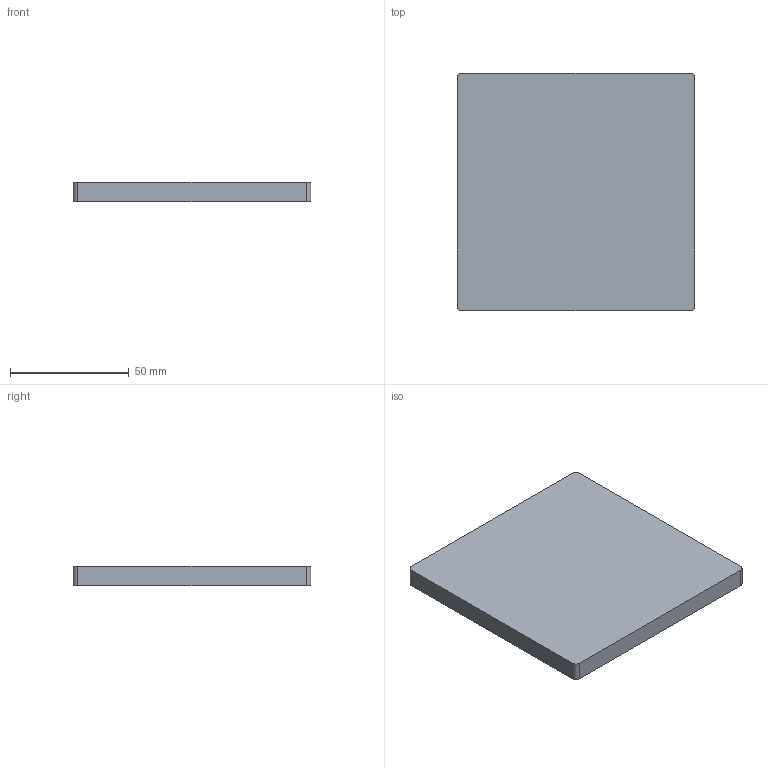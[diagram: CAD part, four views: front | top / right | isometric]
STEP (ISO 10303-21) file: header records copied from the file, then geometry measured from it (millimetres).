
FILE_DESCRIPTION (( 'STEP AP214' ), '1' );
FILE_NAME ('3595000521SLDPRT.STEP', '2025-03-11T14:23:25', ( '' ), ( '' ), 'SwSTEP 2.0', 'SolidWorks 2025', '' );
FILE_SCHEMA (( 'AUTOMOTIVE_DESIGN' ));
Length unit declared in the file: millimetre
Products named in the file (1): 3595000521SLDPRT
Bounding box: 100 x 100 x 8 mm (x, y, z)
Volume: 79972.5 mm3; surface area: 23165.7 mm2
Topology: 1 solids, 1 shells, 10 faces, 24 edges, 16 vertices
Faces by surface type: plane 6, cylinder 4
Entity records: 319 total; most frequent: DIRECTION 54, CARTESIAN_POINT 51, ORIENTED_EDGE 48, EDGE_CURVE 24, AXIS2_PLACEMENT_3D 19, LINE 16, VERTEX_POINT 16, VECTOR 16
